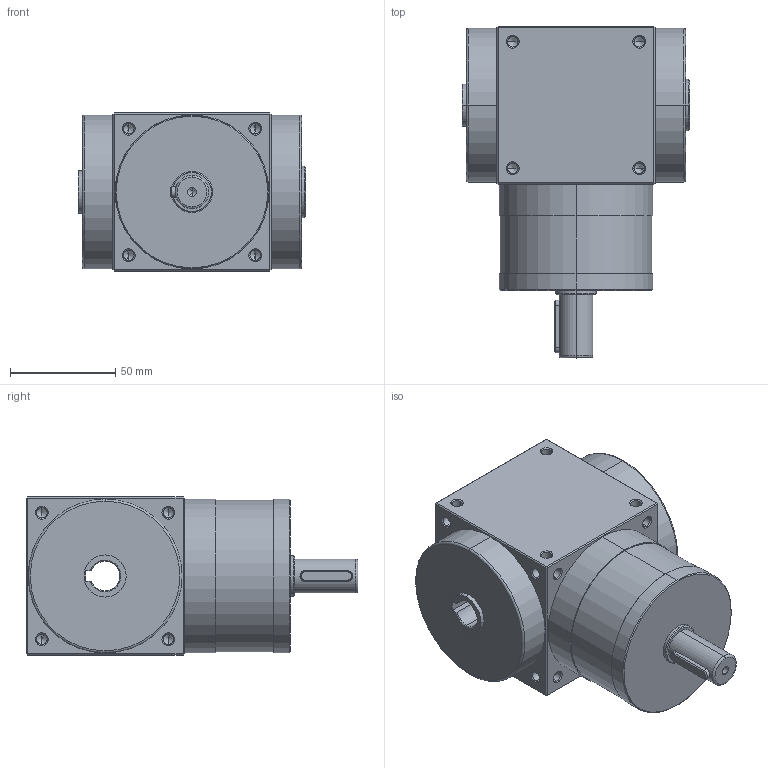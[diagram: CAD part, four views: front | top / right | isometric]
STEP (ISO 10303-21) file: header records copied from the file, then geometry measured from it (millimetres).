
FILE_DESCRIPTION (( 'STEP AP214' ), '1' );
FILE_NAME ('AT075-H-L1.STEP', '2020-06-05T07:59:20', ( 'User' ), ( 'Far123' ), 'SwSTEP 2.0', 'SolidWorks 2015', '' );
FILE_SCHEMA (( 'AUTOMOTIVE_DESIGN' ));
Length unit declared in the file: millimetre
Products named in the file (1): AT075-H-L1
Bounding box: 108 x 157.5 x 75 mm (x, y, z)
Volume: 735548.6 mm3; surface area: 62586 mm2
Topology: 1 solids, 1 shells, 282 faces, 732 edges, 405 vertices
Faces by surface type: cylinder 121, cone 112, plane 43, torus 6
Entity records: 9314 total; most frequent: CARTESIAN_POINT 1924, ORIENTED_EDGE 1364, DIRECTION 1300, EDGE_CURVE 682, AXIS2_PLACEMENT_3D 501, VERTEX_POINT 405, EDGE_LOOP 319, LINE 298
